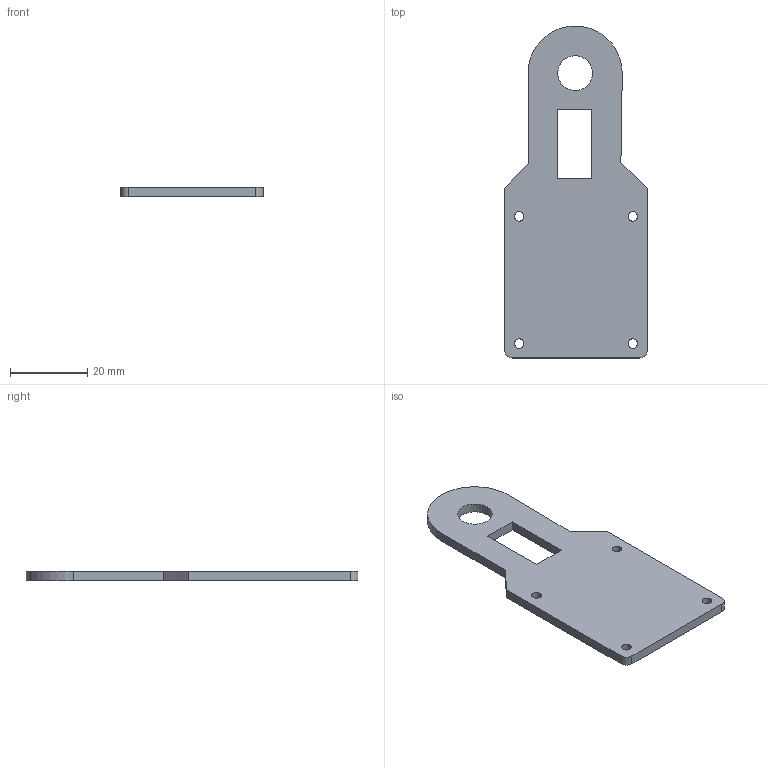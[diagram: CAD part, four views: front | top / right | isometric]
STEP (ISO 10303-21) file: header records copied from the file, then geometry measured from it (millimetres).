
FILE_DESCRIPTION (( 'STEP AP203' ), '1' );
FILE_NAME ('Gimbal Bearing Plate v1.STEP', '2016-10-20T20:46:40', ( 'drhyoo' ), ( '' ), 'SwSTEP 2.0', 'SolidWorks 2016', '' );
FILE_SCHEMA (( 'CONFIG_CONTROL_DESIGN' ));
Length unit declared in the file: millimetre
Products named in the file (1): Gimbal Bearing Plate v1
Bounding box: 37 x 86.18 x 2.5 mm (x, y, z)
Volume: 5964.9 mm3; surface area: 5623.4 mm2
Topology: 1 solids, 1 shells, 26 faces, 72 edges, 48 vertices
Faces by surface type: cylinder 13, plane 13
Entity records: 943 total; most frequent: DIRECTION 152, CARTESIAN_POINT 147, ORIENTED_EDGE 144, EDGE_CURVE 72, AXIS2_PLACEMENT_3D 53, VERTEX_POINT 48, LINE 46, VECTOR 46
